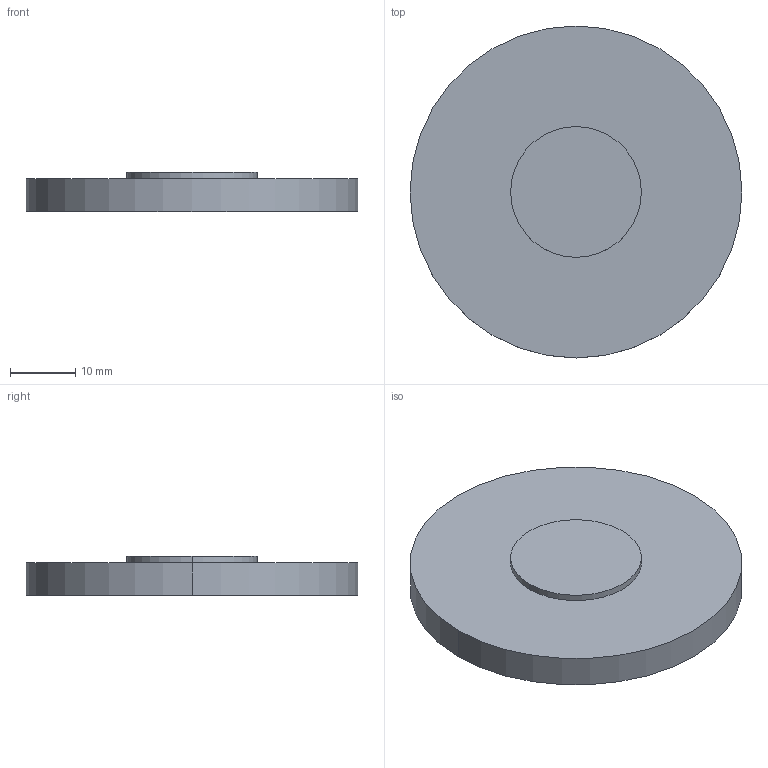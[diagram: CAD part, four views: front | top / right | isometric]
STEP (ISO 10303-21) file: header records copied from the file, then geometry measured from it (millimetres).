
FILE_DESCRIPTION(('STEP AP214'),'1');
FILE_NAME('LLU-5110M.STEP','2020-03-09T17:42:14',(' '),(' '),'Spatial InterOp 3D',' ',' ');
FILE_SCHEMA(('AUTOMOTIVE_DESIGN { 1 0 10303 214 1 1 1 1 }'));
Length unit declared in the file: millimetre
Products named in the file (1): 1
Bounding box: 50.8 x 50.8 x 6 mm (x, y, z)
Volume: 10381.3 mm3; surface area: 5532.2 mm2
Topology: 2 solids, 2 shells, 9 faces, 16 edges, 9 vertices
Faces by surface type: cylinder 4, plane 3, sphere 2
Entity records: 229 total; most frequent: DIRECTION 46, CARTESIAN_POINT 34, ORIENTED_EDGE 28, AXIS2_PLACEMENT_3D 21, EDGE_CURVE 14, CIRCLE 10, ADVANCED_FACE 9, FACE_OUTER_BOUND 9
